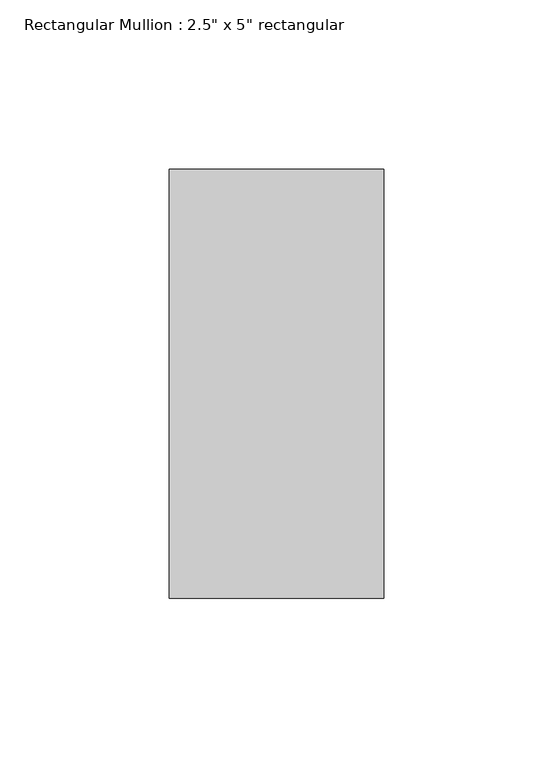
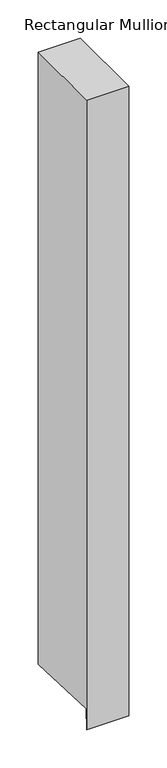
"""IFC4 building model written with IfcOpenShell, lengths in millimetres: member geometry."""

from ifc_helpers import new_model, si_unit, origin, place, context, project, spatial, faceted_brep, source, transform, mapped, element, save


def member_201b3347(model_context):
    return source(origin(), model_context, "Body", "Brep", [
        faceted_brep([(31.75, 63.5, 0.0), (-31.75, 63.5, 0.0), (-31.75, -63.5, 0.0), (31.75, -63.5, 0.0), (31.75, 63.5, -978.8297614), (0.0, 63.5, -978.8297614), (-31.75, 63.5, -978.8297614), (-31.75, -62.043738, -973.3086309), (-31.75, -63.5, -1006.4222437), (0.0, -63.5, -1006.4222437), (31.75, -63.5, -1006.4222437), (31.75, -62.043738, -973.3086309), (0.0, -62.043738, -973.3086309)], [[[0, 1, 2, 3]], [[1, 0, 4, 5, 6]], [[2, 1, 6, 7, 8]], [[3, 2, 8, 9, 10]], [[0, 3, 10, 11, 4]], [[4, 11, 12, 5]], [[11, 10, 9, 12]], [[9, 8, 7, 12]], [[7, 6, 5, 12]]]),
    ])


if __name__ == "__main__":
    model = new_model("IFC4")
    model_context = context("Model", 3, world=origin())
    ifc_project = project(units=[si_unit("LENGTHUNIT", "METRE", prefix="MILLI")], contexts=[model_context])
    site = spatial("IfcSite", under=ifc_project)
    building = spatial("IfcBuilding", under=site)
    placement = place(None, origin())
    member_shape = member_201b3347(model_context)
    element("IfcMember", 1, ObjectType="Rectangular Mullion : 2.5\" x 5\" rectangular", at=placement, inside=building, context=model_context, shape_type="MappedRepresentation", body=[
        mapped(member_shape, transform((0.0, 0.0, 0.0), x_axis=(1.0, 0.0, 0.0), y_axis=(0.0, 1.0, 0.0), z_axis=(0.0, 0.0, 1.0))),
    ])
    save(model, "model.ifc")
